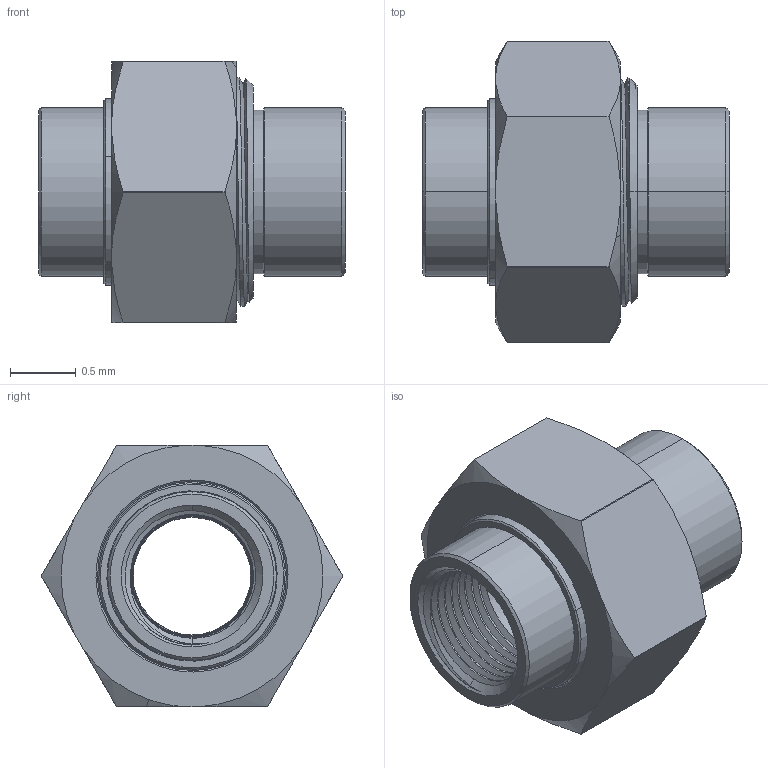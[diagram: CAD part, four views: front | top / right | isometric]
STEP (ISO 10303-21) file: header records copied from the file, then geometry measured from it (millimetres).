
FILE_DESCRIPTION(('Open CASCADE Model'),'2;1');
FILE_NAME('Open CASCADE Shape Model','2022-06-28T15:51:08',('Author'),( 'Open CASCADE'),'Open CASCADE STEP processor 7.3','Open CASCADE 7.3' ,'Unknown');
FILE_SCHEMA(('AUTOMOTIVE_DESIGN { 1 0 10303 214 1 1 1 1 }'));
Length unit declared in the file: millimetre
Products named in the file (6): Open CASCADE STEP translator 7.3 1; Open CASCADE STEP translator 7.3 1.1; Open CASCADE STEP translator 7.3 1.2; Open CASCADE STEP translator 7.3 1.3; Open CASCADE STEP translator 7.3 1.4; Open CASCADE STEP translator 7.3 1.5
Assembly tree (5 placements, depth 2):
  Open CASCADE STEP translator 7.3 1
    Open CASCADE STEP translator 7.3 1.1
    Open CASCADE STEP translator 7.3 1.2
    Open CASCADE STEP translator 7.3 1.3
    Open CASCADE STEP translator 7.3 1.4
    Open CASCADE STEP translator 7.3 1.5
Bounding box: 2.33 x 2.29 x 1.98 mm (x, y, z)
Volume: 3.4 mm3; surface area: 51.2 mm2
Topology: 5 solids, 5 shells, 187 faces, 477 edges, 307 vertices
Faces by surface type: cone 87, cylinder 61, plane 26, bspline 9, torus 4
Entity records: 41215 total; most frequent: CARTESIAN_POINT 32503, DIRECTION 1342, ORIENTED_EDGE 954, PCURVE 954, DEFINITIONAL_REPRESENTATION 954, LINE 666, VECTOR 666, B_SPLINE_CURVE_WITH_KNOTS 504
